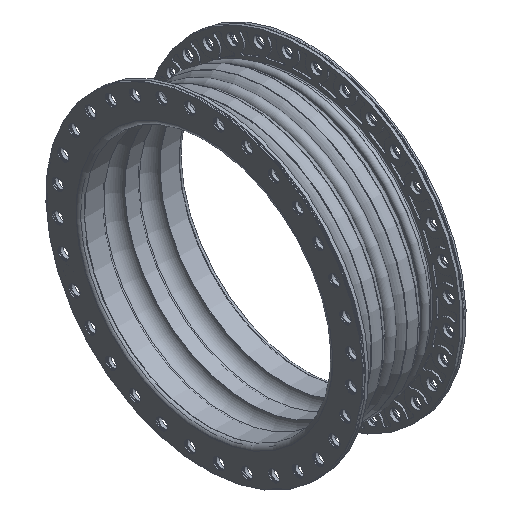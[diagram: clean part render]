
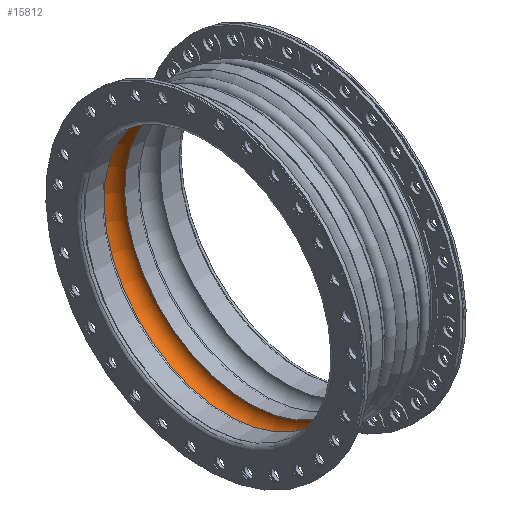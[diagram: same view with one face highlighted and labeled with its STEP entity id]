
A CAD part, isometric view. The second image highlights one B-rep face of the part: STEP entity #15812.
In plain terms, the highlighted toroidal (fillet/blend) face has major radius 457.2 mm and minor radius 38.1 mm.
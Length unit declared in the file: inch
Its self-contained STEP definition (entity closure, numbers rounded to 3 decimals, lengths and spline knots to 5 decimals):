
#15778=CARTESIAN_POINT('',(-1.0625,18.0,0.0));
#15779=VERTEX_POINT('',#15778);
#15780=CARTESIAN_POINT('',(-1.0625,0.,0.0));
#15781=DIRECTION('',(1.0,0.0,0.0));
#15782=DIRECTION('',(0.0,1.0,0.0));
#15783=AXIS2_PLACEMENT_3D('',#15780,#15781,#15782);
#15784=CIRCLE('',#15783,18.0);
#15785=EDGE_CURVE('',#15779,#15779,#15784,.T.);
#15793=CARTESIAN_POINT('',(-2.5625,0.0,0.0));
#15794=DIRECTION('',(1.0,0.,0.0));
#15795=DIRECTION('',(0.0,0.0,-1.0));
#15796=AXIS2_PLACEMENT_3D('',#15793,#15794,#15795);
#15797=TOROIDAL_SURFACE('',#15796,18.,1.5);
#15798=CARTESIAN_POINT('',(-4.0625,18.0,0.0));
#15799=VERTEX_POINT('',#15798);
#15800=CARTESIAN_POINT('',(-4.0625,0.,0.0));
#15801=DIRECTION('',(1.0,0.0,0.0));
#15802=DIRECTION('',(0.0,1.0,0.0));
#15803=AXIS2_PLACEMENT_3D('',#15800,#15801,#15802);
#15804=CIRCLE('',#15803,18.0);
#15805=EDGE_CURVE('',#15799,#15799,#15804,.T.);
#15806=ORIENTED_EDGE('',*,*,#15805,.F.);
#15807=EDGE_LOOP('',(#15806));
#15808=FACE_OUTER_BOUND('',#15807,.T.);
#15809=ORIENTED_EDGE('',*,*,#15785,.T.);
#15810=EDGE_LOOP('',(#15809));
#15811=FACE_BOUND('',#15810,.T.);
#15812=ADVANCED_FACE('',(#15808,#15811),#15797,.F.);
